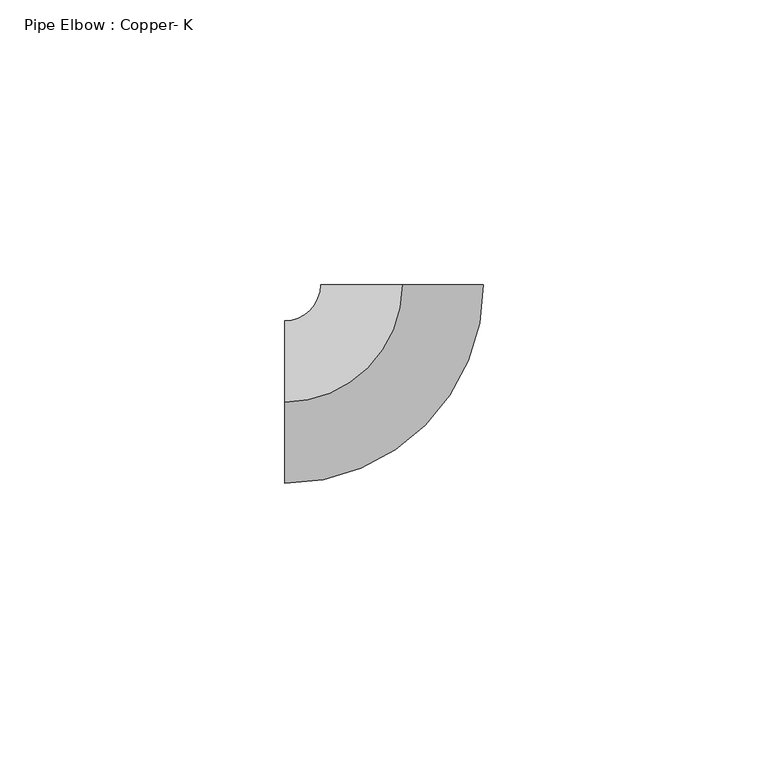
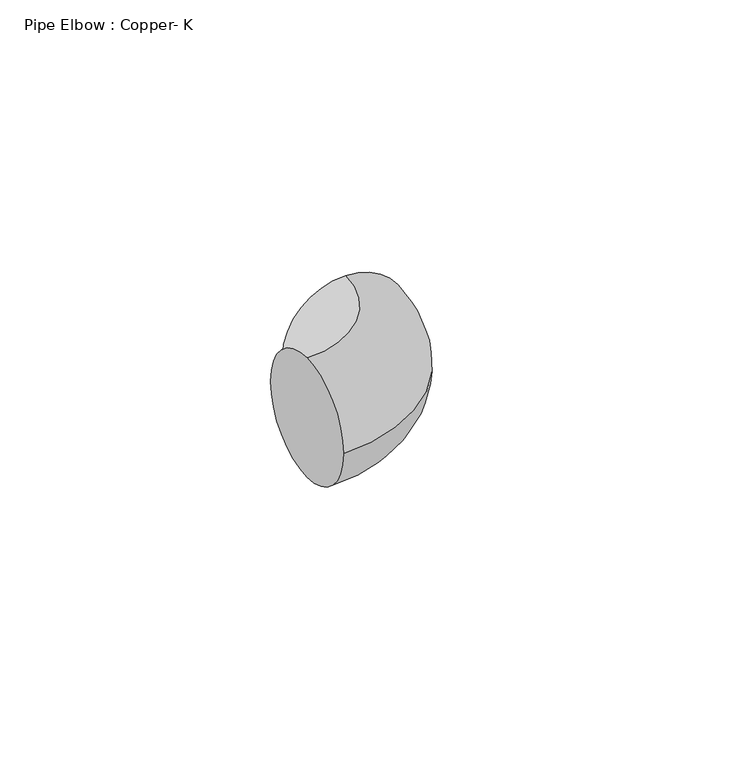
"""IFC4 building model written with IfcOpenShell, lengths in millimetres: pipe fitting geometry, Pipe Elbow : Copper- K."""

from ifc_helpers import new_model, si_unit, point, frame, origin, place, context, project, spatial, circle_curve, ellipse_curve, trimmed, source, transform, mapped, element, save
from ifc_brep_helpers import plane_surface, revolved_surface, advanced_brep


def pipe_elbow_copper_k_b472253f(model_context):
    return source(origin(), model_context, "Body", "AdvancedBrep", [
        advanced_brep(
        [(-20.6379445, 0.0, 14.2875), (-20.6379445, 14.2875, 0.0), (-20.6379445, 0.0, -14.2875), (-20.6379445, -14.2875, 0.0), (-0.0004445, 20.6379445, 14.2875), (14.2870555, 20.6382523, 0.0), (-0.0004445, 20.6379445, -14.2875), (-14.2879445, 20.6376368, 0.0)],
        [
            (0, 1, circle_curve(frame((-20.6379445, 0.0, 0.0), z_axis=(-1.0, 0.0, 0.0), x_axis=(0.0, 1.0, 0.0)), 14.2875)),
            (1, 2, circle_curve(frame((-20.6379445, 0.0, 0.0), z_axis=(-1.0, 0.0, 0.0), x_axis=(0.0, 1.0, 0.0)), 14.2875)),
            (2, 3, circle_curve(frame((-20.6379445, 0.0, 0.0), z_axis=(-1.0, 0.0, 0.0), x_axis=(0.0, 1.0, 0.0)), 14.2875)),
            (3, 0, circle_curve(frame((-20.6379445, 0.0, 0.0), z_axis=(-1.0, 0.0, 0.0), x_axis=(0.0, 1.0, 0.0)), 14.2875)),
            (4, 5, circle_curve(frame((-0.0004445, 20.6379445, 0.0), z_axis=(-2.153970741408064e-05, 0.9999999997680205, 0.0), x_axis=(-0.9999999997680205, -2.153970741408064e-05, 0.0)), 14.2875)),
            (5, 6, circle_curve(frame((-0.0004445, 20.6379445, 0.0), z_axis=(-2.153970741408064e-05, 0.9999999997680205, 0.0), x_axis=(-0.9999999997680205, -2.153970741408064e-05, 0.0)), 14.2875)),
            (6, 7, circle_curve(frame((-0.0004445, 20.6379445, 0.0), z_axis=(-2.153970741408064e-05, 0.9999999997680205, 0.0), x_axis=(-0.9999999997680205, -2.153970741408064e-05, 0.0)), 14.2875)),
            (7, 4, circle_curve(frame((-0.0004445, 20.6379445, 0.0), z_axis=(-2.153970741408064e-05, 0.9999999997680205, 0.0), x_axis=(-0.9999999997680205, -2.153970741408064e-05, 0.0)), 14.2875)),
            (7, 1, circle_curve(frame((-20.6379445, 20.6375, 0.0), z_axis=(0.0, 0.0, -1.0), x_axis=(0.0, -1.0, 0.0)), 6.35)),
            (0, 4, circle_curve(frame((-20.6379445, 20.6375, 14.2875), z_axis=(0.0, 0.0, 1.0), x_axis=(0.0, -1.0, 0.0)), 20.6375)),
            (6, 2, circle_curve(frame((-20.6379445, 20.6375, -14.2875), z_axis=(0.0, 0.0, -1.0), x_axis=(0.0, -1.0, 0.0)), 20.6375)),
            (5, 3, circle_curve(frame((-20.6379445, 20.6375, 0.0), z_axis=(0.0, 0.0, -1.0), x_axis=(0.0, -1.0, 0.0)), 34.925)),
        ],
        [
            plane_surface(frame((-20.6379445, 0.0, 0.0), z_axis=(-1.0, 0.0, 0.0), x_axis=(0.0, 0.0, 1.0))),
            plane_surface(frame((-0.0004445, 20.6379445, 0.0), z_axis=(-2.1539707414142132e-05, 0.9999999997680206, 0.0), x_axis=(0.0, 0.0, 1.0))),
            revolved_surface(trimmed(ellipse_curve(frame((-20.6379445, 0.0, 0.0), z_axis=(-1.0, 0.0, 0.0), x_axis=(0.0, 1.0, 0.0)), 14.2875, 14.2875), [point((-20.6379445, 0.0, 14.2875))], [point((-20.6379445, 14.2875, 0.0))], True, "CARTESIAN"), (-20.6379445, 20.6375, 0.0), (0.0, 0.0, 1.0)),
            revolved_surface(trimmed(ellipse_curve(frame((-20.6379445, 0.0, 0.0), z_axis=(-1.0, 0.0, 0.0), x_axis=(0.0, 1.0, 0.0)), 14.2875, 14.2875), [point((-20.6379445, 14.2875, 0.0))], [point((-20.6379445, 0.0, -14.2875))], True, "CARTESIAN"), (-20.6379445, 20.6375, 0.0), (0.0, 0.0, 1.0)),
            revolved_surface(trimmed(ellipse_curve(frame((-20.6379445, 0.0, 0.0), z_axis=(-1.0, 0.0, 0.0), x_axis=(0.0, 1.0, 0.0)), 14.2875, 14.2875), [point((-20.6379445, 0.0, -14.2875))], [point((-20.6379445, -14.2875, 0.0))], True, "CARTESIAN"), (-20.6379445, 20.6375, 0.0), (0.0, 0.0, 1.0)),
            revolved_surface(trimmed(ellipse_curve(frame((-20.6379445, 0.0, 0.0), z_axis=(-1.0, 0.0, 0.0), x_axis=(0.0, 1.0, 0.0)), 14.2875, 14.2875), [point((-20.6379445, -14.2875, 0.0))], [point((-20.6379445, 0.0, 14.2875))], True, "CARTESIAN"), (-20.6379445, 20.6375, 0.0), (0.0, 0.0, 1.0)),
        ],
        [
            (0, [[1, 2, 3, 4]]),
            (1, [[5, 6, 7, 8]]),
            (2, [[9, -1, 10, -8]]),
            (3, [[11, -2, -9, -7]]),
            (4, [[12, -3, -11, -6]]),
            (5, [[-10, -4, -12, -5]]),
        ],
    ),
        advanced_brep(
        [(-20.6379445, 0.0, 14.2875), (-20.6379445, 14.2875, 0.0), (-20.6379445, 0.0, -14.2875), (-20.6379445, -14.2875, 0.0), (-0.0004445, 20.6379445, 14.2875), (14.2870555, 20.6382523, 0.0), (-0.0004445, 20.6379445, -14.2875), (-14.2879445, 20.6376368, 0.0)],
        [
            (0, 1, circle_curve(frame((-20.6379445, 0.0, 0.0), z_axis=(-1.0, 0.0, 0.0), x_axis=(0.0, 1.0, 0.0)), 14.2875)),
            (1, 2, circle_curve(frame((-20.6379445, 0.0, 0.0), z_axis=(-1.0, 0.0, 0.0), x_axis=(0.0, 1.0, 0.0)), 14.2875)),
            (2, 3, circle_curve(frame((-20.6379445, 0.0, 0.0), z_axis=(-1.0, 0.0, 0.0), x_axis=(0.0, 1.0, 0.0)), 14.2875)),
            (3, 0, circle_curve(frame((-20.6379445, 0.0, 0.0), z_axis=(-1.0, 0.0, 0.0), x_axis=(0.0, 1.0, 0.0)), 14.2875)),
            (4, 5, circle_curve(frame((-0.0004445, 20.6379445, 0.0), z_axis=(-2.153970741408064e-05, 0.9999999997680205, 0.0), x_axis=(-0.9999999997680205, -2.153970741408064e-05, 0.0)), 14.2875)),
            (5, 6, circle_curve(frame((-0.0004445, 20.6379445, 0.0), z_axis=(-2.153970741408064e-05, 0.9999999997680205, 0.0), x_axis=(-0.9999999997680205, -2.153970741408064e-05, 0.0)), 14.2875)),
            (6, 7, circle_curve(frame((-0.0004445, 20.6379445, 0.0), z_axis=(-2.153970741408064e-05, 0.9999999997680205, 0.0), x_axis=(-0.9999999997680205, -2.153970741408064e-05, 0.0)), 14.2875)),
            (7, 4, circle_curve(frame((-0.0004445, 20.6379445, 0.0), z_axis=(-2.153970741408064e-05, 0.9999999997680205, 0.0), x_axis=(-0.9999999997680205, -2.153970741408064e-05, 0.0)), 14.2875)),
            (7, 1, circle_curve(frame((-20.6379445, 20.6375, 0.0), z_axis=(0.0, 0.0, -1.0), x_axis=(0.0, -1.0, 0.0)), 6.35)),
            (0, 4, circle_curve(frame((-20.6379445, 20.6375, 14.2875), z_axis=(0.0, 0.0, 1.0), x_axis=(0.0, -1.0, 0.0)), 20.6375)),
            (6, 2, circle_curve(frame((-20.6379445, 20.6375, -14.2875), z_axis=(0.0, 0.0, -1.0), x_axis=(0.0, -1.0, 0.0)), 20.6375)),
            (5, 3, circle_curve(frame((-20.6379445, 20.6375, 0.0), z_axis=(0.0, 0.0, -1.0), x_axis=(0.0, -1.0, 0.0)), 34.925)),
        ],
        [
            plane_surface(frame((-20.6379445, 0.0, 0.0), z_axis=(-1.0, 0.0, 0.0), x_axis=(0.0, 0.0, 1.0))),
            plane_surface(frame((-0.0004445, 20.6379445, 0.0), z_axis=(-2.1539707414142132e-05, 0.9999999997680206, 0.0), x_axis=(0.0, 0.0, 1.0))),
            revolved_surface(trimmed(ellipse_curve(frame((-20.6379445, 0.0, 0.0), z_axis=(-1.0, 0.0, 0.0), x_axis=(0.0, 1.0, 0.0)), 14.2875, 14.2875), [point((-20.6379445, 0.0, 14.2875))], [point((-20.6379445, 14.2875, 0.0))], True, "CARTESIAN"), (-20.6379445, 20.6375, 0.0), (0.0, 0.0, 1.0)),
            revolved_surface(trimmed(ellipse_curve(frame((-20.6379445, 0.0, 0.0), z_axis=(-1.0, 0.0, 0.0), x_axis=(0.0, 1.0, 0.0)), 14.2875, 14.2875), [point((-20.6379445, 14.2875, 0.0))], [point((-20.6379445, 0.0, -14.2875))], True, "CARTESIAN"), (-20.6379445, 20.6375, 0.0), (0.0, 0.0, 1.0)),
            revolved_surface(trimmed(ellipse_curve(frame((-20.6379445, 0.0, 0.0), z_axis=(-1.0, 0.0, 0.0), x_axis=(0.0, 1.0, 0.0)), 14.2875, 14.2875), [point((-20.6379445, 0.0, -14.2875))], [point((-20.6379445, -14.2875, 0.0))], True, "CARTESIAN"), (-20.6379445, 20.6375, 0.0), (0.0, 0.0, 1.0)),
            revolved_surface(trimmed(ellipse_curve(frame((-20.6379445, 0.0, 0.0), z_axis=(-1.0, 0.0, 0.0), x_axis=(0.0, 1.0, 0.0)), 14.2875, 14.2875), [point((-20.6379445, -14.2875, 0.0))], [point((-20.6379445, 0.0, 14.2875))], True, "CARTESIAN"), (-20.6379445, 20.6375, 0.0), (0.0, 0.0, 1.0)),
        ],
        [
            (0, [[1, 2, 3, 4]]),
            (1, [[5, 6, 7, 8]]),
            (2, [[9, -1, 10, -8]]),
            (3, [[11, -2, -9, -7]]),
            (4, [[12, -3, -11, -6]]),
            (5, [[-10, -4, -12, -5]]),
        ],
    ),
    ])


if __name__ == "__main__":
    model = new_model("IFC4")
    model_context = context("Model", 3, world=origin())
    ifc_project = project(units=[si_unit("LENGTHUNIT", "METRE", prefix="MILLI")], contexts=[model_context])
    site = spatial("IfcSite", under=ifc_project)
    building = spatial("IfcBuilding", under=site)
    placement = place(None, origin())
    pipe_elbow_copper_k_shape = pipe_elbow_copper_k_b472253f(model_context)
    element("IfcPipeFitting", 1, ObjectType="Pipe Elbow : Copper- K", at=placement, inside=building, context=model_context, shape_type="MappedRepresentation", body=[
        mapped(pipe_elbow_copper_k_shape, transform((0.0, 0.0, 0.0), x_axis=(1.0, 0.0, 0.0), y_axis=(0.0, 1.0, 0.0), z_axis=(0.0, 0.0, 1.0))),
    ])
    save(model, "model.ifc")
